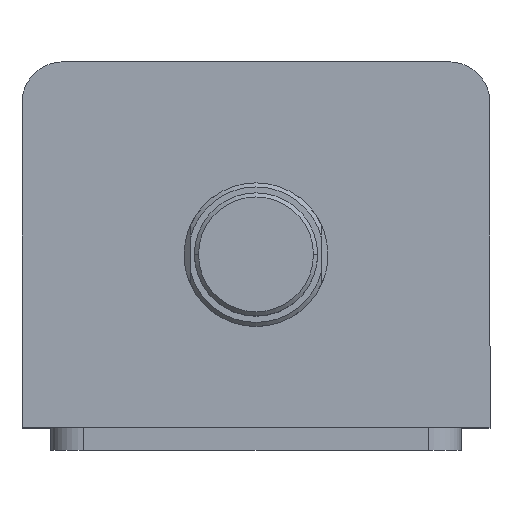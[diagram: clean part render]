
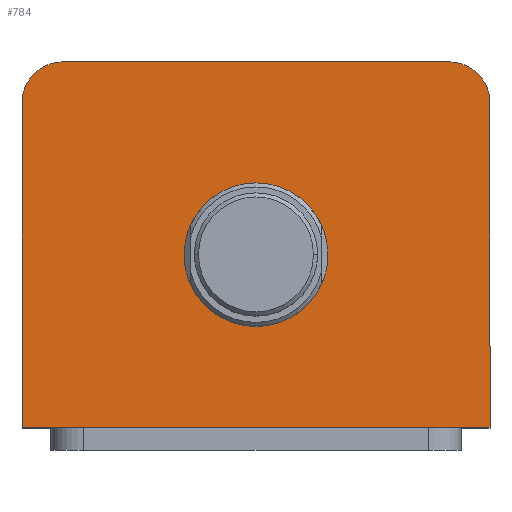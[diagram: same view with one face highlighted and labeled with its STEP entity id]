
A CAD part, top view. The second image highlights one B-rep face of the part: STEP entity #784.
In plain terms, the highlighted planar face has unit normal (0, 0, 1).
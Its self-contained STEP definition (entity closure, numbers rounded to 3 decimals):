
#4 = CARTESIAN_POINT ( 'NONE',  ( 0., -2.5, 122. ) ) ;
#5 = DIRECTION ( 'NONE',  ( 0., 0., 1. ) ) ;
#6 = DIRECTION ( 'NONE',  ( 1., 0., 0. ) ) ;
#203 = CARTESIAN_POINT ( 'NONE',  ( 0., -2.5, 122. ) ) ;
#204 = DIRECTION ( 'NONE',  ( 0., 0., 1. ) ) ;
#205 = DIRECTION ( 'NONE',  ( 1., 0., 0. ) ) ;
#231 = CARTESIAN_POINT ( 'NONE',  ( -57., 44.5, 122. ) ) ;
#232 = DIRECTION ( 'NONE',  ( 0., -1., 0. ) ) ;
#243 = CARTESIAN_POINT ( 'NONE',  ( 47., 34.5, 122. ) ) ;
#244 = DIRECTION ( 'NONE',  ( 0., 0., 1. ) ) ;
#245 = DIRECTION ( 'NONE',  ( 1., 0., 0. ) ) ;
#246 = CARTESIAN_POINT ( 'NONE',  ( -57., 44.5, 122. ) ) ;
#247 = DIRECTION ( 'NONE',  ( -1., 0., 0. ) ) ;
#359 = FACE_BOUND ( 'NONE', #1281, .T. ) ;
#378 = FACE_OUTER_BOUND ( 'NONE', #1293, .T. ) ;
#496 = LINE ( 'NONE', #696, #499 ) ;
#499 = VECTOR ( 'NONE', #697, 1000. ) ;
#518 = LINE ( 'NONE', #717, #520 ) ;
#520 = VECTOR ( 'NONE', #718, 1000. ) ;
#550 = CIRCLE ( 'NONE', #3734, 17.5 ) ;
#576 = LINE ( 'NONE', #231, #578 ) ;
#577 = CIRCLE ( 'NONE', #3728, 10. ) ;
#578 = VECTOR ( 'NONE', #232, 1000. ) ;
#580 = LINE ( 'NONE', #246, #583 ) ;
#583 = VECTOR ( 'NONE', #247, 1000. ) ;
#622 = CIRCLE ( 'NONE', #3720, 17.5 ) ;
#696 = CARTESIAN_POINT ( 'NONE',  ( 57., 44.5, 122. ) ) ;
#697 = DIRECTION ( 'NONE',  ( 0., 1., 0. ) ) ;
#717 = CARTESIAN_POINT ( 'NONE',  ( -57., -44.5, 122. ) ) ;
#718 = DIRECTION ( 'NONE',  ( 1., 0., 0. ) ) ;
#784 = ADVANCED_FACE ( 'NONE', ( #359, #378 ), #2561, .T. ) ;
#891 = CARTESIAN_POINT ( 'NONE',  ( -47., 34.5, 122. ) ) ;
#892 = DIRECTION ( 'NONE',  ( 0., 0., 1. ) ) ;
#893 = DIRECTION ( 'NONE',  ( 1., 0., 0. ) ) ;
#1281 = EDGE_LOOP ( 'NONE', ( #1661, #1662 ) ) ;
#1293 = EDGE_LOOP ( 'NONE', ( #1663, #1664, #1665, #1666, #1667, #1668 ) ) ;
#1661 = ORIENTED_EDGE ( 'NONE', *, *, #3521, .F. ) ;
#1662 = ORIENTED_EDGE ( 'NONE', *, *, #3619, .F. ) ;
#1663 = ORIENTED_EDGE ( 'NONE', *, *, #3558, .T. ) ;
#1664 = ORIENTED_EDGE ( 'NONE', *, *, #3783, .T. ) ;
#1665 = ORIENTED_EDGE ( 'NONE', *, *, #3549, .T. ) ;
#1666 = ORIENTED_EDGE ( 'NONE', *, *, #3491, .T. ) ;
#1667 = ORIENTED_EDGE ( 'NONE', *, *, #3479, .T. ) ;
#1668 = ORIENTED_EDGE ( 'NONE', *, *, #3551, .T. ) ;
#2235 = CIRCLE ( 'NONE', #3689, 10. ) ;
#2561 = PLANE ( 'NONE',  #3388 ) ;
#2563 = CARTESIAN_POINT ( 'NONE',  ( 0., 0., 122. ) ) ;
#2568 = DIRECTION ( 'NONE',  ( 0., 0., 1. ) ) ;
#2569 = DIRECTION ( 'NONE',  ( 1., 0., 0. ) ) ;
#2806 = CARTESIAN_POINT ( 'NONE',  ( -17.5, -2.5, 122. ) ) ;
#2807 = CARTESIAN_POINT ( 'NONE',  ( -57., -44.5, 122. ) ) ;
#2808 = CARTESIAN_POINT ( 'NONE',  ( 17.5, -2.5, 122. ) ) ;
#2810 = CARTESIAN_POINT ( 'NONE',  ( 57., -44.5, 122. ) ) ;
#2826 = CARTESIAN_POINT ( 'NONE',  ( 57., 34.5, 122. ) ) ;
#2838 = CARTESIAN_POINT ( 'NONE',  ( 47., 44.5, 122. ) ) ;
#2841 = CARTESIAN_POINT ( 'NONE',  ( -47., 44.5, 122. ) ) ;
#2853 = CARTESIAN_POINT ( 'NONE',  ( -57., 34.5, 122. ) ) ;
#2954 = VERTEX_POINT ( 'NONE', #2806 ) ;
#2955 = VERTEX_POINT ( 'NONE', #2807 ) ;
#2956 = VERTEX_POINT ( 'NONE', #2808 ) ;
#2958 = VERTEX_POINT ( 'NONE', #2810 ) ;
#2974 = VERTEX_POINT ( 'NONE', #2826 ) ;
#2986 = VERTEX_POINT ( 'NONE', #2838 ) ;
#2989 = VERTEX_POINT ( 'NONE', #2841 ) ;
#2997 = VERTEX_POINT ( 'NONE', #2853 ) ;
#3388 = AXIS2_PLACEMENT_3D ( 'NONE', #2563, #2568, #2569 ) ;
#3479 = EDGE_CURVE ( 'NONE', #2958, #2974, #496, .T. ) ;
#3491 = EDGE_CURVE ( 'NONE', #2955, #2958, #518, .T. ) ;
#3521 = EDGE_CURVE ( 'NONE', #2956, #2954, #550, .T. ) ;
#3549 = EDGE_CURVE ( 'NONE', #2997, #2955, #576, .T. ) ;
#3551 = EDGE_CURVE ( 'NONE', #2974, #2986, #577, .T. ) ;
#3558 = EDGE_CURVE ( 'NONE', #2986, #2989, #580, .T. ) ;
#3619 = EDGE_CURVE ( 'NONE', #2954, #2956, #622, .T. ) ;
#3689 = AXIS2_PLACEMENT_3D ( 'NONE', #891, #892, #893 ) ;
#3720 = AXIS2_PLACEMENT_3D ( 'NONE', #4, #5, #6 ) ;
#3728 = AXIS2_PLACEMENT_3D ( 'NONE', #243, #244, #245 ) ;
#3734 = AXIS2_PLACEMENT_3D ( 'NONE', #203, #204, #205 ) ;
#3783 = EDGE_CURVE ( 'NONE', #2989, #2997, #2235, .T. ) ;
